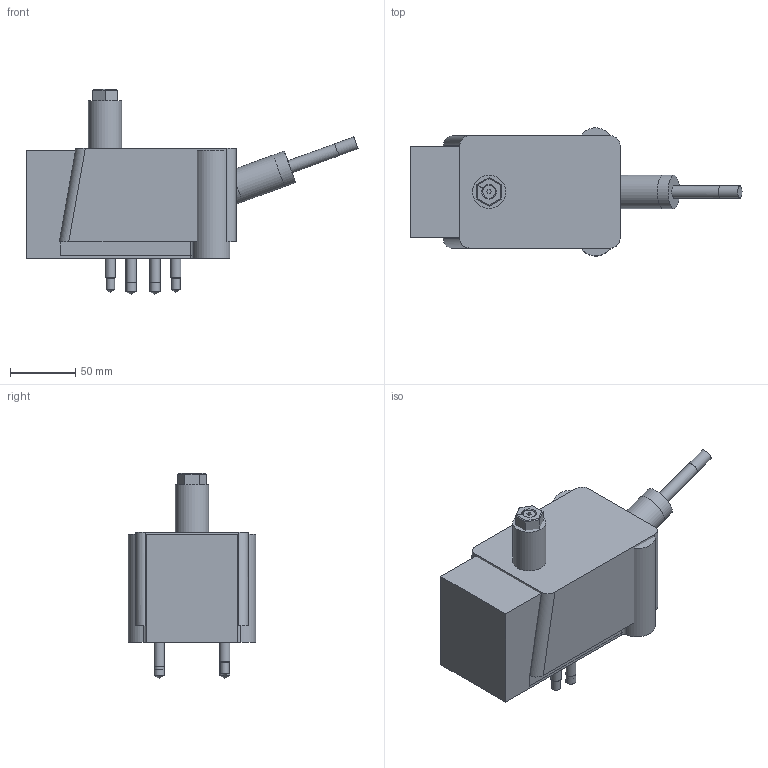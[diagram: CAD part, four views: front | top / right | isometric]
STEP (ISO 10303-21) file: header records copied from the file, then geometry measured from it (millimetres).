
FILE_DESCRIPTION(('STEP AP214'),'1');
FILE_NAME('0011_EZ-20-S_201209.stp','2020-12-14T12:24:54',(' '),(' '),'Spatial InterOp 3D',' ',' ');
FILE_SCHEMA(('AUTOMOTIVE_DESIGN { 1 0 10303 214 1 1 1 1 }'));
Length unit declared in the file: metre
Products named in the file (19): 1583159039; 1580702757; 1580702734; 1580691960; 1580700033; 1580688335; 1580688599; 1580688640; 1580689014; 1580689030; 1580689046; 1580689062; 1580689236; 1580689244; 1562100740; 1562099358; 1607698220; 1607698333; 1
Bounding box: 253.53 x 97.7 x 156.95 mm (x, y, z)
Volume: 2478563.1 mm3; surface area: 231709.8 mm2
Topology: 18 solids, 18 shells, 247 faces, 542 edges, 348 vertices
Faces by surface type: plane 139, cylinder 62, cone 35, torus 5, bspline 4, sphere 2
Full cylindrical faces by diameter (mm): 3.175 x1, 3.797 x1, 4.089 x1, 4.826 x3, 5.159 x1, 6.35 x1, 6.528 x2, 7.938 x11, 8.433 x1, 8.5 x2, 8.731 x1, 9.5 x1, 9.525 x4, 11.906 x2, 12.7 x4, 14.25 x2, 15.875 x1, 25.146 x1, 25.4 x1, 25.527 x1, 26.746 x2, 27 x2, 50.292 x1, 50.8 x1
Entity records: 18865 total; most frequent: CARTESIAN_POINT 11620, DIRECTION 1089, ORIENTED_EDGE 832, AXIS2_PLACEMENT_3D 426, EDGE_CURVE 416, EDGE_LOOP 369, VERTEX_POINT 317, FACE_OUTER_BOUND 300
